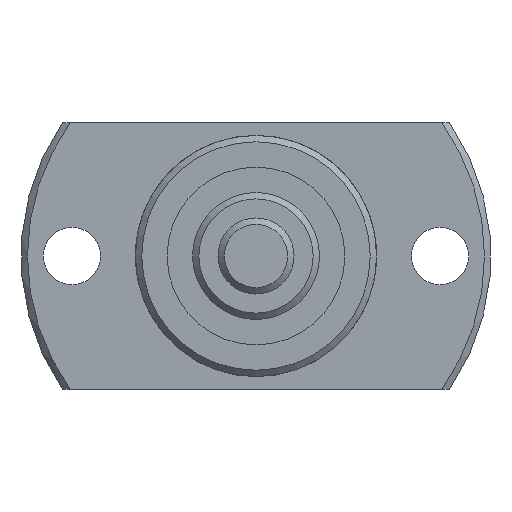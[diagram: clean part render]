
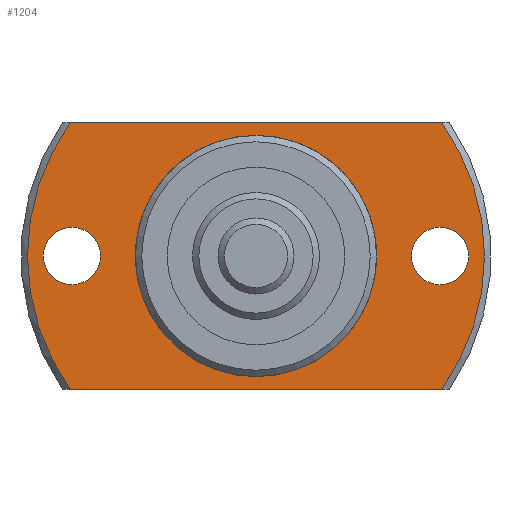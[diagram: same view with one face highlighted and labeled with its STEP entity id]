
A CAD part, left-side view. The second image highlights one B-rep face of the part: STEP entity #1204.
In plain terms, the highlighted planar face has unit normal (-1, 0, 0).
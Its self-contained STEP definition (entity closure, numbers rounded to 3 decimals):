
#127=CIRCLE('',#1339,9.25);
#130=CIRCLE('',#1343,18.);
#136=CIRCLE('',#1354,2.25);
#137=CIRCLE('',#1355,2.25);
#138=CIRCLE('',#1356,18.);
#286=ORIENTED_EDGE('',*,*,#565,.T.);
#287=ORIENTED_EDGE('',*,*,#566,.T.);
#288=ORIENTED_EDGE('',*,*,#554,.F.);
#289=ORIENTED_EDGE('',*,*,#567,.T.);
#290=ORIENTED_EDGE('',*,*,#568,.F.);
#291=ORIENTED_EDGE('',*,*,#569,.T.);
#292=ORIENTED_EDGE('',*,*,#548,.T.);
#548=EDGE_CURVE('',#700,#700,#127,.T.);
#554=EDGE_CURVE('',#705,#706,#130,.T.);
#565=EDGE_CURVE('',#715,#715,#136,.T.);
#566=EDGE_CURVE('',#716,#716,#137,.T.);
#567=EDGE_CURVE('',#705,#717,#790,.T.);
#568=EDGE_CURVE('',#718,#717,#138,.T.);
#569=EDGE_CURVE('',#718,#706,#791,.T.);
#700=VERTEX_POINT('',#1980);
#705=VERTEX_POINT('',#1994);
#706=VERTEX_POINT('',#1996);
#715=VERTEX_POINT('',#2030);
#716=VERTEX_POINT('',#2032);
#717=VERTEX_POINT('',#2034);
#718=VERTEX_POINT('',#2036);
#790=LINE('',#2033,#850);
#791=LINE('',#2037,#851);
#850=VECTOR('',#1623,1000.);
#851=VECTOR('',#1626,1000.);
#944=EDGE_LOOP('',(#286));
#945=EDGE_LOOP('',(#287));
#946=EDGE_LOOP('',(#288,#289,#290,#291));
#947=EDGE_LOOP('',(#292));
#1066=FACE_BOUND('',#944,.T.);
#1067=FACE_BOUND('',#945,.T.);
#1068=FACE_BOUND('',#946,.T.);
#1069=FACE_BOUND('',#947,.T.);
#1145=PLANE('',#1353);
#1204=ADVANCED_FACE('',(#1066,#1067,#1068,#1069),#1145,.F.);
#1339=AXIS2_PLACEMENT_3D('',#1979,#1585,#1586);
#1343=AXIS2_PLACEMENT_3D('',#1995,#1595,#1596);
#1353=AXIS2_PLACEMENT_3D('',#2028,#1617,#1618);
#1354=AXIS2_PLACEMENT_3D('',#2029,#1619,#1620);
#1355=AXIS2_PLACEMENT_3D('',#2031,#1621,#1622);
#1356=AXIS2_PLACEMENT_3D('',#2035,#1624,#1625);
#1585=DIRECTION('',(1.,0.,0.));
#1586=DIRECTION('',(0.,0.,-1.));
#1595=DIRECTION('',(1.,0.,0.));
#1596=DIRECTION('',(0.,0.,-1.));
#1617=DIRECTION('',(1.,0.,0.));
#1618=DIRECTION('',(0.,0.,-1.));
#1619=DIRECTION('',(1.,0.,0.));
#1620=DIRECTION('',(0.,0.,-1.));
#1621=DIRECTION('',(1.,0.,0.));
#1622=DIRECTION('',(0.,0.,-1.));
#1623=DIRECTION('',(0.,-1.,0.));
#1624=DIRECTION('',(1.,0.,0.));
#1625=DIRECTION('',(0.,0.,-1.));
#1626=DIRECTION('',(0.,1.,0.));
#1979=CARTESIAN_POINT('',(13.,0.,0.));
#1980=CARTESIAN_POINT('',(13.,0.,-9.25));
#1994=CARTESIAN_POINT('',(13.,14.62,-10.5));
#1995=CARTESIAN_POINT('',(13.,0.,0.));
#1996=CARTESIAN_POINT('',(13.,14.62,10.5));
#2028=CARTESIAN_POINT('',(13.,9.25,0.));
#2029=CARTESIAN_POINT('',(13.,-14.5,0.));
#2030=CARTESIAN_POINT('',(13.,-14.5,-2.25));
#2031=CARTESIAN_POINT('',(13.,14.5,0.));
#2032=CARTESIAN_POINT('',(13.,14.5,-2.25));
#2033=CARTESIAN_POINT('',(13.,9.25,-10.5));
#2034=CARTESIAN_POINT('',(13.,-14.62,-10.5));
#2035=CARTESIAN_POINT('',(13.,0.,0.));
#2036=CARTESIAN_POINT('',(13.,-14.62,10.5));
#2037=CARTESIAN_POINT('',(13.,9.25,10.5));
